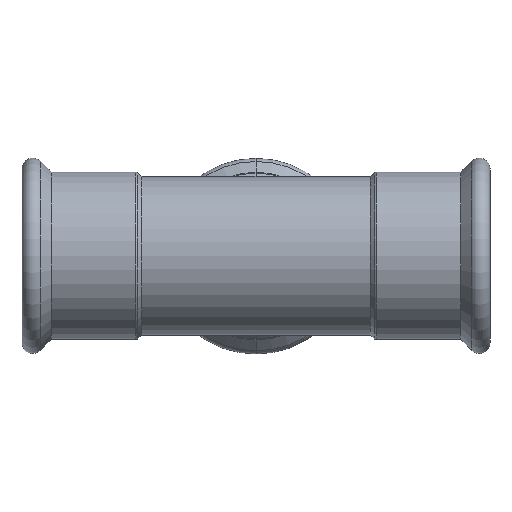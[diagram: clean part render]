
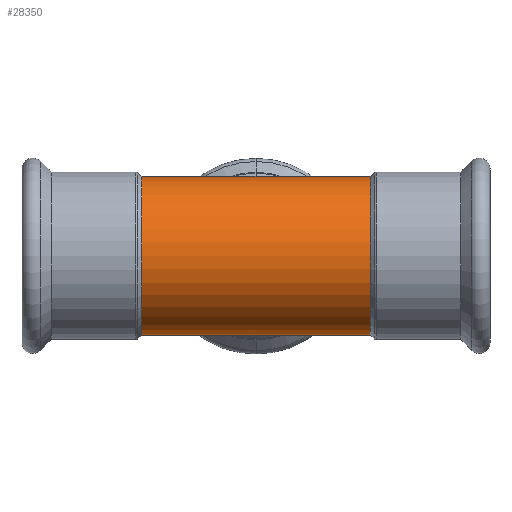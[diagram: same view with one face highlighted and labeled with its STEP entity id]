
A CAD part, top view. The second image highlights one B-rep face of the part: STEP entity #28350.
In plain terms, the highlighted cylindrical face has radius 44.45 mm (diameter 88.9 mm), a partial arc.
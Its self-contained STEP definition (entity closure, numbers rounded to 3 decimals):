
#1360=CARTESIAN_POINT('',(4.,-44.45,0.));
#1370=VERTEX_POINT('',#1360);
#1550=CARTESIAN_POINT('',(4.,44.45,0.));
#1560=VERTEX_POINT('',#1550);
#1590=CARTESIAN_POINT('',(4.,0.,0.));
#1600=DIRECTION('',(1.,0.,0.));
#1610=DIRECTION('',(0.,-1.,0.));
#1620=AXIS2_PLACEMENT_3D('',#1590,#1600,#1610);
#1630=CIRCLE('',#1620,44.45);
#13580=CARTESIAN_POINT('',(-60.,44.45,0.));
#13590=VERTEX_POINT('',#13580);
#13770=CARTESIAN_POINT('',(-60.,-44.45,0.));
#13780=VERTEX_POINT('',#13770);
#14000=CARTESIAN_POINT('',(-124.,-44.45,0.));
#14010=VERTEX_POINT('',#14000);
#14190=CARTESIAN_POINT('',(-124.,44.45,0.));
#14200=VERTEX_POINT('',#14190);
#14230=CARTESIAN_POINT('',(-124.,0.,0.));
#14240=DIRECTION('',(1.,0.,0.));
#14250=DIRECTION('',(0.,1.,0.));
#14260=AXIS2_PLACEMENT_3D('',#14230,#14240,#14250);
#14270=CIRCLE('',#14260,44.45);
#14280=EDGE_CURVE('',#14200,#14010,#14270,.T.);
#28090=CARTESIAN_POINT('',(4.,0.,0.));
#28100=DIRECTION('',(1.,0.,0.));
#28110=DIRECTION('',(0.,1.,0.));
#28120=AXIS2_PLACEMENT_3D('',#28090,#28100,#28110);
#28130=CYLINDRICAL_SURFACE('',#28120,44.45);
#28140=CARTESIAN_POINT('',(4.,44.45,0.));
#28150=DIRECTION('',(1.,0.,0.));
#28160=VECTOR('',#28150,1.);
#28170=LINE('',#28140,#28160);
#28180=EDGE_CURVE('',#14200,#13590,#28170,.T.);
#28190=ORIENTED_EDGE('',*,*,#28180,.F.);
#28200=EDGE_CURVE('',#13590,#1560,#28170,.T.);
#28210=ORIENTED_EDGE('',*,*,#28200,.F.);
#28220=EDGE_CURVE('',#1560,#1370,#1630,.T.);
#28230=ORIENTED_EDGE('',*,*,#28220,.F.);
#28240=CARTESIAN_POINT('',(4.,-44.45,0.));
#28250=DIRECTION('',(1.,0.,0.));
#28260=VECTOR('',#28250,1.);
#28270=LINE('',#28240,#28260);
#28280=EDGE_CURVE('',#13780,#1370,#28270,.T.);
#28290=ORIENTED_EDGE('',*,*,#28280,.T.);
#28300=EDGE_CURVE('',#14010,#13780,#28270,.T.);
#28310=ORIENTED_EDGE('',*,*,#28300,.T.);
#28320=ORIENTED_EDGE('',*,*,#14280,.T.);
#28330=EDGE_LOOP('',(#28320,#28310,#28290,#28230,#28210,#28190));
#28340=FACE_OUTER_BOUND('',#28330,.T.);
#28350=ADVANCED_FACE('',(#28340),#28130,.T.);
